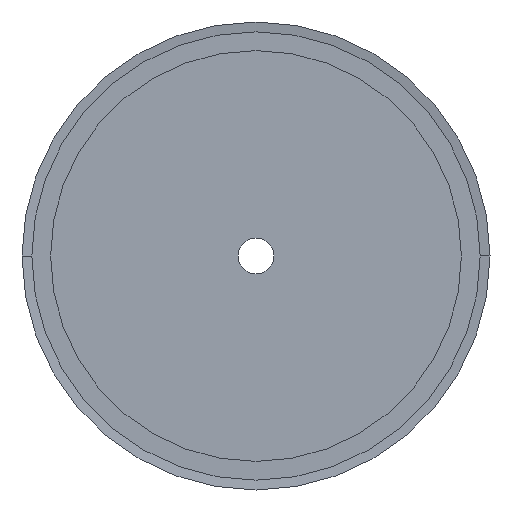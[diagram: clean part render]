
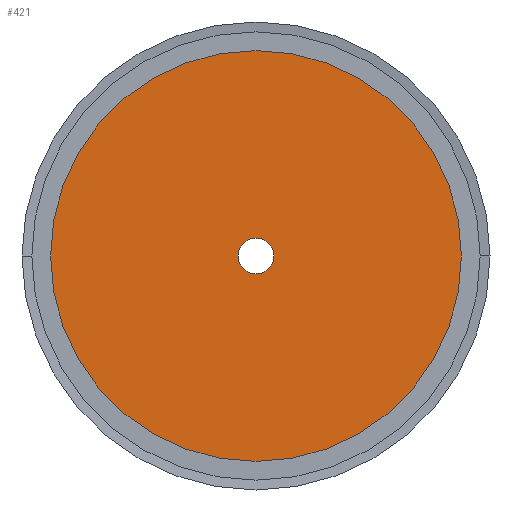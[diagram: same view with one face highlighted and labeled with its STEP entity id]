
A CAD part, left-side view. The second image highlights one B-rep face of the part: STEP entity #421.
In plain terms, the highlighted planar face has unit normal (-1, 0, 0).
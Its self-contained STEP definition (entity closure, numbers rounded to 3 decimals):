
#421 = ADVANCED_FACE( '', ( #1121, #1122 ), #1123, .T. );
#1121 = FACE_BOUND( '', #1822, .T. );
#1122 = FACE_OUTER_BOUND( '', #1823, .T. );
#1123 = PLANE( '', #1824 );
#1822 = EDGE_LOOP( '', ( #4883, #4884 ) );
#1823 = EDGE_LOOP( '', ( #4885, #4886 ) );
#1824 = AXIS2_PLACEMENT_3D( '', #4887, #4888, #4889 );
#4883 = ORIENTED_EDGE( '', *, *, #5896, .F. );
#4884 = ORIENTED_EDGE( '', *, *, #4905, .F. );
#4885 = ORIENTED_EDGE( '', *, *, #4893, .T. );
#4886 = ORIENTED_EDGE( '', *, *, #5901, .T. );
#4887 = CARTESIAN_POINT( '', ( 0., 31.25, 0. ) );
#4888 = DIRECTION( '', ( -1., 0., 0. ) );
#4889 = DIRECTION( '', ( 0., 1., 0. ) );
#4893 = EDGE_CURVE( '', #5903, #5907, #5909, .T. );
#4905 = EDGE_CURVE( '', #5931, #5927, #5933, .T. );
#5896 = EDGE_CURVE( '', #5927, #5931, #7580, .T. );
#5901 = EDGE_CURVE( '', #5907, #5903, #7585, .T. );
#5903 = VERTEX_POINT( '', #7587 );
#5907 = VERTEX_POINT( '', #7592 );
#5909 = CIRCLE( '', #7595, 57.5 );
#5927 = VERTEX_POINT( '', #7617 );
#5931 = VERTEX_POINT( '', #7622 );
#5933 = CIRCLE( '', #7625, 5. );
#7580 = CIRCLE( '', #9844, 5. );
#7585 = CIRCLE( '', #9849, 57.5 );
#7587 = CARTESIAN_POINT( '', ( 0., 57.5, 0. ) );
#7592 = CARTESIAN_POINT( '', ( 0., -57.5, 0. ) );
#7595 = AXIS2_PLACEMENT_3D( '', #9855, #9856, #9857 );
#7617 = CARTESIAN_POINT( '', ( 0., 5., 0. ) );
#7622 = CARTESIAN_POINT( '', ( 0., -5., 0. ) );
#7625 = AXIS2_PLACEMENT_3D( '', #9879, #9880, #9881 );
#9844 = AXIS2_PLACEMENT_3D( '', #11708, #11709, #11710 );
#9849 = AXIS2_PLACEMENT_3D( '', #11723, #11724, #11725 );
#9855 = CARTESIAN_POINT( '', ( 0., 0., 0. ) );
#9856 = DIRECTION( '', ( -1., 0., 0. ) );
#9857 = DIRECTION( '', ( 0., 1., 0. ) );
#9879 = CARTESIAN_POINT( '', ( 0., 0., 0. ) );
#9880 = DIRECTION( '', ( -1., 0., 0. ) );
#9881 = DIRECTION( '', ( 0., 1., 0. ) );
#11708 = CARTESIAN_POINT( '', ( 0., 0., 0. ) );
#11709 = DIRECTION( '', ( -1., 0., 0. ) );
#11710 = DIRECTION( '', ( 0., 1., 0. ) );
#11723 = CARTESIAN_POINT( '', ( 0., 0., 0. ) );
#11724 = DIRECTION( '', ( -1., 0., 0. ) );
#11725 = DIRECTION( '', ( 0., 1., 0. ) );
